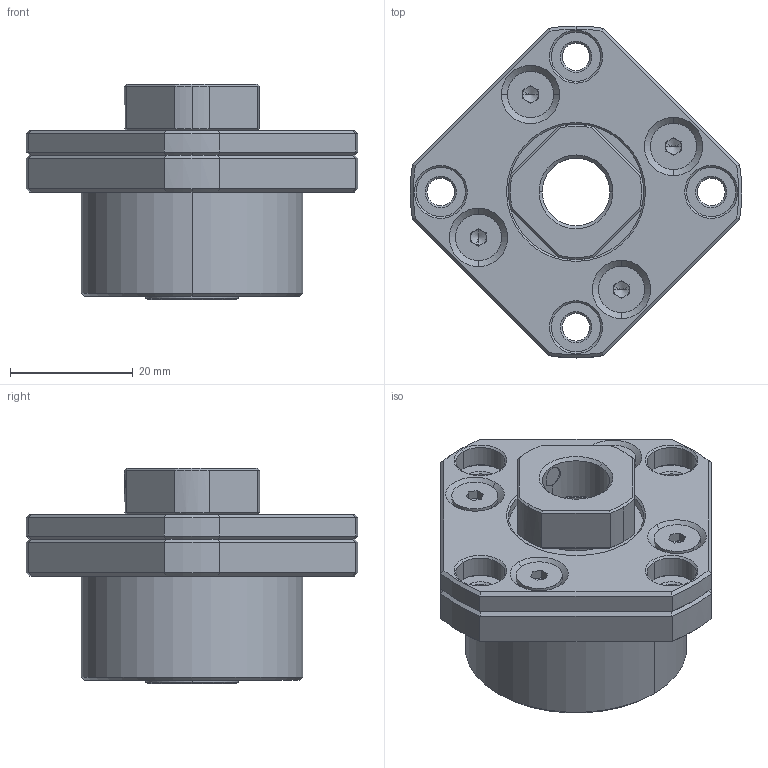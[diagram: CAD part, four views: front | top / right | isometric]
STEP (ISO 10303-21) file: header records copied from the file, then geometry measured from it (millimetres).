
FILE_DESCRIPTION (( 'STEP AP203' ), '1' );
FILE_NAME ('FK12.STEP', '2013-09-11T08:57:20', ( 'MYCOM' ), ( '' ), 'SwSTEP 2.0', 'SolidWorks 2012', '' );
FILE_SCHEMA (( 'CONFIG_CONTROL_DESIGN' ));
Length unit declared in the file: millimetre
Products named in the file (1): FK12
Bounding box: 53.92 x 54 x 35 mm (x, y, z)
Volume: 32188.2 mm3; surface area: 12437.3 mm2
Topology: 1 solids, 17 shells, 406 faces, 965 edges, 589 vertices
Faces by surface type: cone 144, plane 130, cylinder 108, bspline 24
Entity records: 14310 total; most frequent: CARTESIAN_POINT 4997, DIRECTION 1958, ORIENTED_EDGE 1894, EDGE_CURVE 947, AXIS2_PLACEMENT_3D 781, VERTEX_POINT 589, EDGE_LOOP 452, FACE_OUTER_BOUND 406
